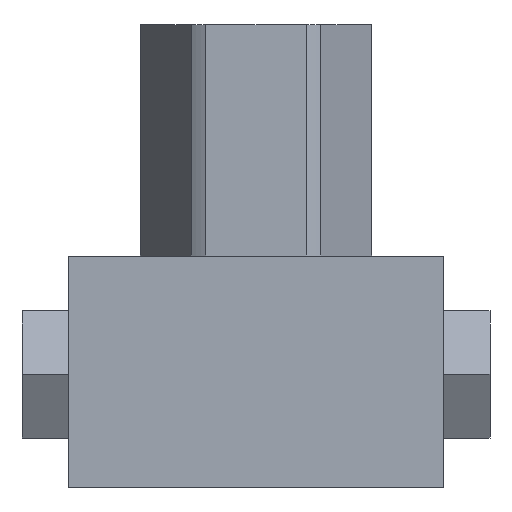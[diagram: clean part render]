
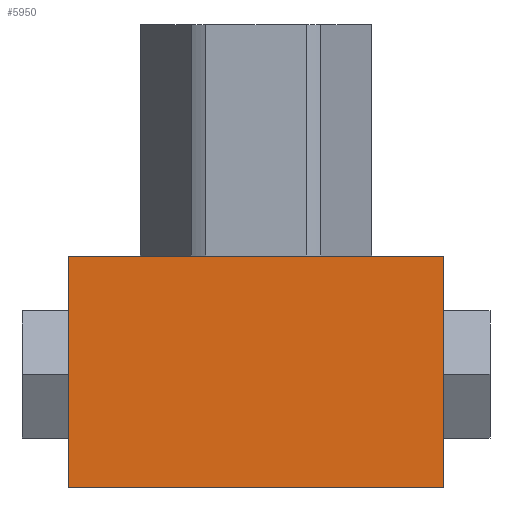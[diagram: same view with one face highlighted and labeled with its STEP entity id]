
A CAD part, front view. The second image highlights one B-rep face of the part: STEP entity #5950.
In plain terms, the highlighted planar face has unit normal (0, -1, 0).
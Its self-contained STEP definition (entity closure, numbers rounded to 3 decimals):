
#5911=CARTESIAN_POINT('',(-32.5,-20.0,20.0));
#5912=DIRECTION('',(0.0,-1.0,0.0));
#5913=DIRECTION('',(0.0,0.0,-1.0));
#5914=AXIS2_PLACEMENT_3D('',#5911,#5912,#5913);
#5915=PLANE('',#5914);
#5916=CARTESIAN_POINT('',(-32.5,-20.0,-20.0));
#5917=VERTEX_POINT('',#5916);
#5918=CARTESIAN_POINT('',(32.5,-20.0,-20.0));
#5919=VERTEX_POINT('',#5918);
#5920=CARTESIAN_POINT('',(-32.5,-20.0,-20.0));
#5921=DIRECTION('',(1.0,0.0,0.0));
#5922=VECTOR('',#5921,65.0);
#5923=LINE('',#5920,#5922);
#5924=EDGE_CURVE('',#5917,#5919,#5923,.T.);
#5925=ORIENTED_EDGE('',*,*,#5924,.T.);
#5926=CARTESIAN_POINT('',(32.5,-20.0,20.0));
#5927=VERTEX_POINT('',#5926);
#5928=CARTESIAN_POINT('',(32.5,-20.0,20.0));
#5929=DIRECTION('',(0.0,0.0,-1.0));
#5930=VECTOR('',#5929,40.0);
#5931=LINE('',#5928,#5930);
#5932=EDGE_CURVE('',#5927,#5919,#5931,.T.);
#5933=ORIENTED_EDGE('',*,*,#5932,.F.);
#5934=CARTESIAN_POINT('',(-32.5,-20.0,20.0));
#5935=VERTEX_POINT('',#5934);
#5936=CARTESIAN_POINT('',(32.5,-20.0,20.0));
#5937=DIRECTION('',(-1.0,0.0,0.0));
#5938=VECTOR('',#5937,65.0);
#5939=LINE('',#5936,#5938);
#5940=EDGE_CURVE('',#5927,#5935,#5939,.T.);
#5941=ORIENTED_EDGE('',*,*,#5940,.T.);
#5942=CARTESIAN_POINT('',(-32.5,-20.0,20.0));
#5943=DIRECTION('',(0.0,0.0,-1.0));
#5944=VECTOR('',#5943,40.0);
#5945=LINE('',#5942,#5944);
#5946=EDGE_CURVE('',#5935,#5917,#5945,.T.);
#5947=ORIENTED_EDGE('',*,*,#5946,.T.);
#5948=EDGE_LOOP('',(#5925,#5933,#5941,#5947));
#5949=FACE_OUTER_BOUND('',#5948,.T.);
#5950=ADVANCED_FACE('',(#5949),#5915,.T.);
